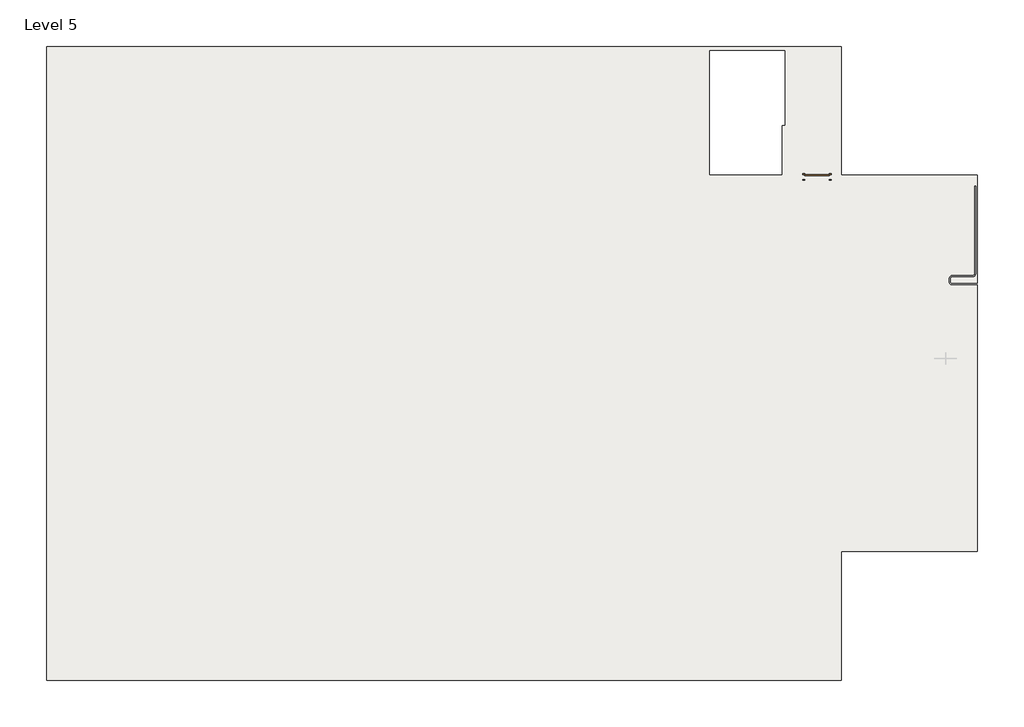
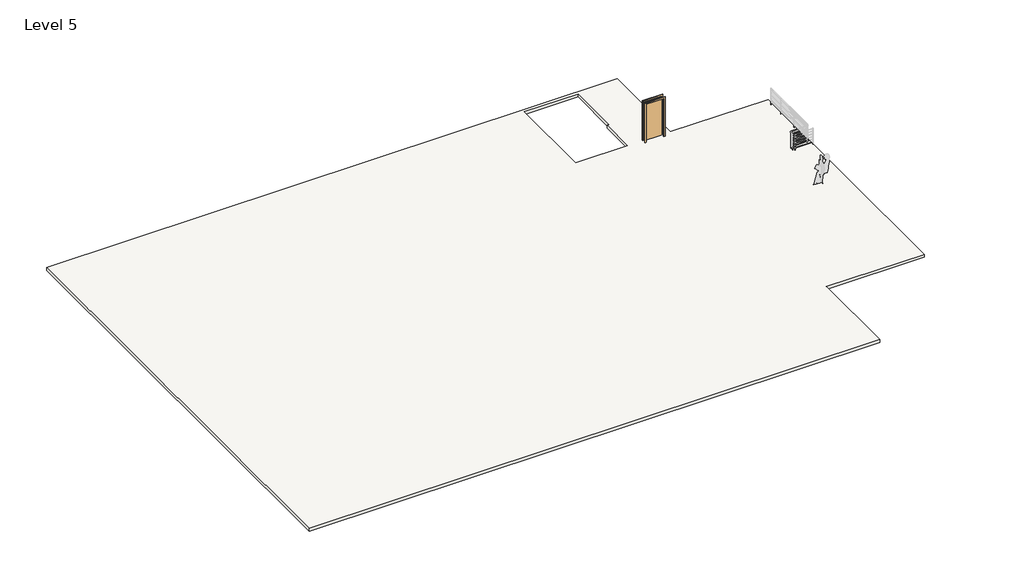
# One storey, part 1 of 3: 1 door, 1 slab.
"""IFC4 building model written with IfcOpenShell, lengths in millimetres."""

from ifc_helpers import new_model, si_unit, frame, origin, place, context, project, spatial, polyline, outline, extrude, transform, mapped, element, save
from components import door_d6d25fb4

model = new_model("IFC4")

# Units and contexts
model_context = context("Model", 3, world=origin())
ifc_project = project(units=[si_unit("LENGTHUNIT", "METRE", prefix="MILLI")], contexts=[model_context])

# Site, building, storey
site = spatial("IfcSite", under=ifc_project)
building = spatial("IfcBuilding", under=site)
storey = spatial("IfcBuildingStorey", under=building, Name="Level 5", Elevation=14630.4)

# Door
placement = place(None, origin())
door_shape = door_d6d25fb4(model_context)
element("IfcDoor", 1, ObjectType="Single-Flush : 36\" x 84\"", at=placement, inside=storey, context=model_context, shape_type="MappedRepresentation", body=[
    mapped(door_shape, transform((11946.7089721, 4553.8023319, 14630.4), x_axis=(1.0, 0.0, 0.0), y_axis=(0.0, 1.0, 0.0), z_axis=(0.0, 0.0, 1.0))),
])

# Slab
element("IfcSlab", 2, ObjectType="Concrete Deck with Terrazzo", at=placement, inside=storey, context=model_context, shape_type="SweptSolid", body=[
    extrude(outline(polyline([(-17231.5410279, 9498.8648319), (12873.8089721, 9498.8648319), (12873.8089721, 4622.0648319), (18023.4049721, 4622.0648319), (18023.4049721, -9633.6851681), (12873.8089721, -9633.6851681), (12873.8089721, -14510.4851681), (-17231.5410279, -14510.4851681), (-17231.5410279, 9498.8648319)]), holes=[polyline([(7883.7381388, 9333.7648319), (7883.7381388, 4651.5398319), (10616.9131388, 4651.5398319), (10616.9131388, 6514.3648319), (10718.2353862, 6514.3648319), (10718.2353862, 9333.7648319), (7883.7381388, 9333.7648319)])]), frame((0.0, 0.0, 14478.0), z_axis=(0.0, 0.0, 1.0), x_axis=(1.0, 0.0, 0.0)), (0.0, 0.0, 1.0), 152.4),
])

save(model, "model.ifc")
